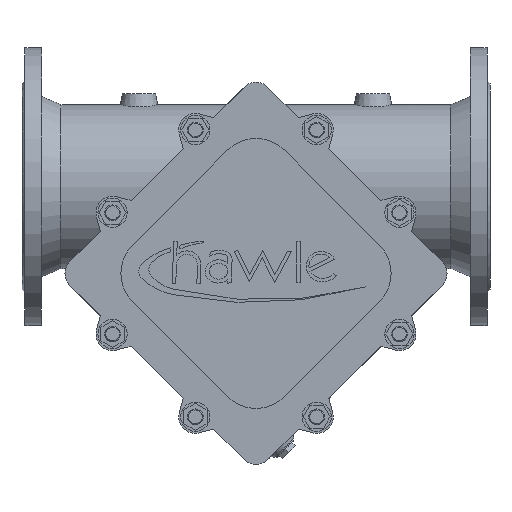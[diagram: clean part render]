
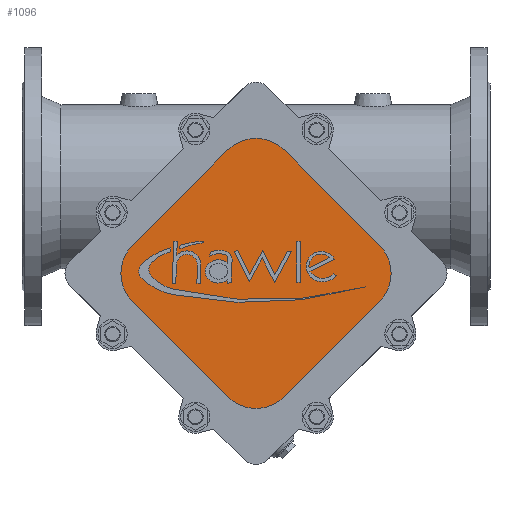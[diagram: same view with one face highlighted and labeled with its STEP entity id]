
A CAD part, front view. The second image highlights one B-rep face of the part: STEP entity #1096.
In plain terms, the highlighted planar face has unit normal (0, -1, 0).
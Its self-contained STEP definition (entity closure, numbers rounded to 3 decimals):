
#1096=ADVANCED_FACE('',(#2361),#2362,.T.);
#2361=FACE_OUTER_BOUND('',#4228,.T.);
#2362=PLANE('',#4229);
#4228=EDGE_LOOP('',(#5843,#5844,#5845,#5846,#5847,#5848,#5849,#5850,#5851,#5852));
#4229=AXIS2_PLACEMENT_3D('',#5853,#5854,#5855);
#5843=ORIENTED_EDGE('',*,*,#9903,.F.);
#5844=ORIENTED_EDGE('',*,*,#9904,.F.);
#5845=ORIENTED_EDGE('',*,*,#9849,.F.);
#5846=ORIENTED_EDGE('',*,*,#9905,.F.);
#5847=ORIENTED_EDGE('',*,*,#9906,.F.);
#5848=ORIENTED_EDGE('',*,*,#9907,.F.);
#5849=ORIENTED_EDGE('',*,*,#9908,.F.);
#5850=ORIENTED_EDGE('',*,*,#9909,.F.);
#5851=ORIENTED_EDGE('',*,*,#9910,.F.);
#5852=ORIENTED_EDGE('',*,*,#9911,.F.);
#5853=CARTESIAN_POINT('',(-240.,-150.0,-89.));
#5854=DIRECTION('',(0.0,-1.0,0.0));
#5855=DIRECTION('',(1.0,0.0,0.0));
#9849=EDGE_CURVE('',#11487,#11482,#11489,.T.);
#9903=EDGE_CURVE('',#11579,#11580,#11581,.T.);
#9904=EDGE_CURVE('',#11482,#11579,#11582,.T.);
#9905=EDGE_CURVE('',#11583,#11487,#11584,.T.);
#9906=EDGE_CURVE('',#11585,#11583,#11586,.T.);
#9907=EDGE_CURVE('',#11587,#11585,#11588,.T.);
#9908=EDGE_CURVE('',#11589,#11587,#11590,.T.);
#9909=EDGE_CURVE('',#11591,#11589,#11592,.T.);
#9910=EDGE_CURVE('',#11593,#11591,#11594,.T.);
#9911=EDGE_CURVE('',#11580,#11593,#11595,.T.);
#11482=VERTEX_POINT('',#13904);
#11487=VERTEX_POINT('',#13910);
#11489=CIRCLE('',#13913,41.);
#11579=VERTEX_POINT('',#14064);
#11580=VERTEX_POINT('',#14065);
#11581=LINE('',#14066,#14067);
#11582=CIRCLE('',#14068,41.);
#11583=VERTEX_POINT('',#14069);
#11584=LINE('',#14070,#14071);
#11585=VERTEX_POINT('',#14072);
#11586=CIRCLE('',#14073,41.);
#11587=VERTEX_POINT('',#14074);
#11588=LINE('',#14075,#14076);
#11589=VERTEX_POINT('',#14077);
#11590=CIRCLE('',#14078,41.);
#11591=VERTEX_POINT('',#14079);
#11592=CIRCLE('',#14080,41.);
#11593=VERTEX_POINT('',#14081);
#11594=LINE('',#14082,#14083);
#11595=CIRCLE('',#14084,41.002);
#13904=CARTESIAN_POINT('',(-378.581,-150.0,-89.001));
#13910=CARTESIAN_POINT('',(-366.572,-150.0,-117.992));
#13913=AXIS2_PLACEMENT_3D('',#16927,#16928,#16929);
#14064=CARTESIAN_POINT('',(-366.572,-150.0,-60.009));
#14065=CARTESIAN_POINT('',(-268.992,-150.0,37.572));
#14066=CARTESIAN_POINT('',(-268.992,-150.0,37.572));
#14067=VECTOR('',#16999,1.0);
#14068=AXIS2_PLACEMENT_3D('',#17000,#17001,#17002);
#14069=CARTESIAN_POINT('',(-268.992,-150.0,-215.572));
#14070=CARTESIAN_POINT('',(-366.572,-150.0,-117.992));
#14071=VECTOR('',#17003,1.0);
#14072=CARTESIAN_POINT('',(-211.009,-150.0,-215.572));
#14073=AXIS2_PLACEMENT_3D('',#17004,#17005,#17006);
#14074=CARTESIAN_POINT('',(-113.428,-150.0,-117.992));
#14075=CARTESIAN_POINT('',(-211.009,-150.0,-215.572));
#14076=VECTOR('',#17007,1.0);
#14077=CARTESIAN_POINT('',(-101.419,-150.0,-89.001));
#14078=AXIS2_PLACEMENT_3D('',#17008,#17009,#17010);
#14079=CARTESIAN_POINT('',(-113.428,-150.0,-60.009));
#14080=AXIS2_PLACEMENT_3D('',#17011,#17012,#17013);
#14081=CARTESIAN_POINT('',(-211.009,-150.0,37.572));
#14082=CARTESIAN_POINT('',(-113.428,-150.0,-60.009));
#14083=VECTOR('',#17014,1.0);
#14084=AXIS2_PLACEMENT_3D('',#17015,#17016,#17017);
#16927=CARTESIAN_POINT('',(-337.581,-150.0,-89.001));
#16928=DIRECTION('',(-0.0,1.0,0.0));
#16929=DIRECTION('',(1.0,0.0,0.0));
#16999=DIRECTION('',(0.707,0.0,0.707));
#17000=CARTESIAN_POINT('',(-337.581,-150.0,-89.001));
#17001=DIRECTION('',(-0.0,1.0,0.0));
#17002=DIRECTION('',(1.0,0.0,0.0));
#17003=DIRECTION('',(-0.707,0.0,0.707));
#17004=CARTESIAN_POINT('',(-240.001,-150.0,-186.581));
#17005=DIRECTION('',(-0.0,1.0,0.0));
#17006=DIRECTION('',(1.0,0.0,0.0));
#17007=DIRECTION('',(-0.707,0.0,-0.707));
#17008=CARTESIAN_POINT('',(-142.419,-150.0,-89.001));
#17009=DIRECTION('',(-0.0,1.0,0.0));
#17010=DIRECTION('',(1.0,0.0,0.0));
#17011=CARTESIAN_POINT('',(-142.419,-150.0,-89.001));
#17012=DIRECTION('',(-0.0,1.0,0.0));
#17013=DIRECTION('',(1.0,0.0,0.0));
#17014=DIRECTION('',(0.707,0.0,-0.707));
#17015=CARTESIAN_POINT('',(-240.001,-150.0,8.578));
#17016=DIRECTION('',(-0.0,1.0,0.0));
#17017=DIRECTION('',(1.0,0.0,0.0));
